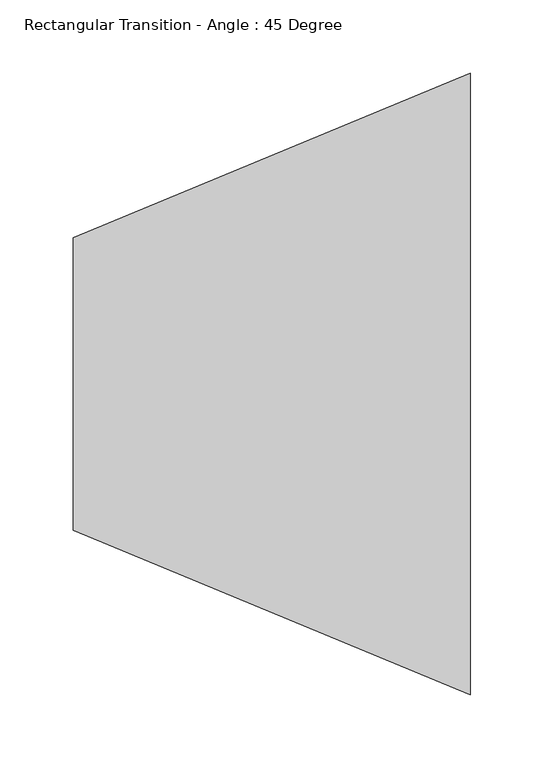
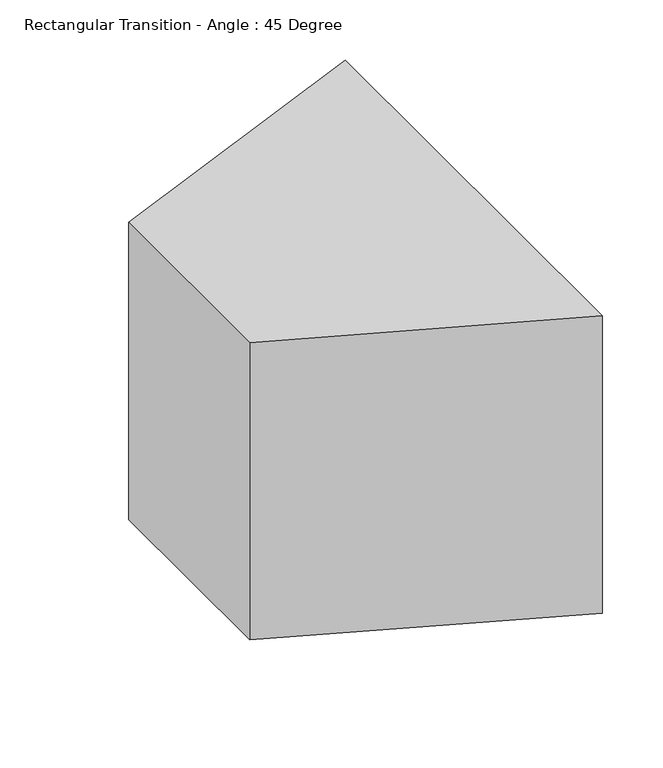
"""IFC4 building model written with IfcOpenShell, lengths in millimetres: duct fitting geometry, Rectangular Transition - Angle : 45 Degree."""

from ifc_helpers import new_model, si_unit, frame, origin, place, context, project, spatial, polyline, outline, extrude, source, transform, mapped, element, save


def rectangular_transition_angle_45_degree_6f019713(model_context):
    return source(origin(), model_context, "Body", "SweptSolid", [
        extrude(outline(polyline([(0.0, -100.0), (0.0, 100.0), (271.5990258, 212.5), (271.5990258, -212.5), (0.0, -100.0)])), frame((0.0, 0.0, -150.0), z_axis=(0.0, 0.0, 1.0), x_axis=(1.0, 0.0, 0.0)), (0.0, 0.0, 1.0), 300.0),
    ])


if __name__ == "__main__":
    model = new_model("IFC4")
    model_context = context("Model", 3, world=origin())
    ifc_project = project(units=[si_unit("LENGTHUNIT", "METRE", prefix="MILLI")], contexts=[model_context])
    site = spatial("IfcSite", under=ifc_project)
    building = spatial("IfcBuilding", under=site)
    placement = place(None, origin())
    rectangular_transition_angle_45_degree_shape = rectangular_transition_angle_45_degree_6f019713(model_context)
    element("IfcDuctFitting", 1, ObjectType="Rectangular Transition - Angle : 45 Degree", at=placement, inside=building, context=model_context, shape_type="MappedRepresentation", body=[
        mapped(rectangular_transition_angle_45_degree_shape, transform((0.0, 0.0, 0.0), x_axis=(1.0, 0.0, 0.0), y_axis=(0.0, 1.0, 0.0), z_axis=(0.0, 0.0, 1.0))),
    ])
    save(model, "model.ifc")
